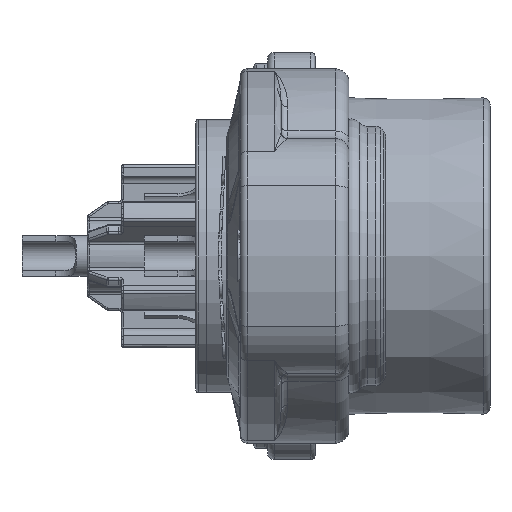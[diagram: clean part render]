
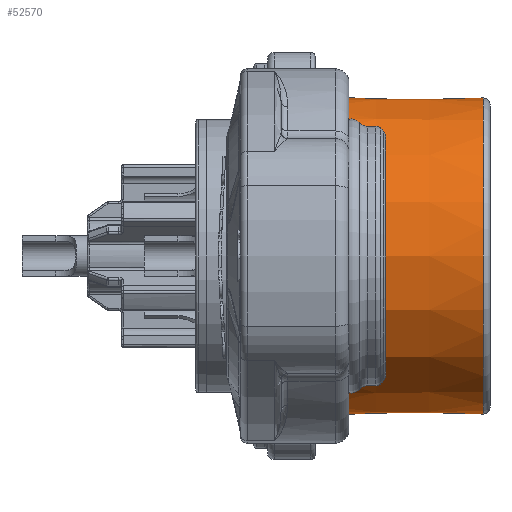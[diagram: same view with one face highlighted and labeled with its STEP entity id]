
A CAD part, front view. The second image highlights one B-rep face of the part: STEP entity #52570.
In plain terms, the highlighted conical face has half-angle 0.5 degrees and reference radius 11.65 mm.
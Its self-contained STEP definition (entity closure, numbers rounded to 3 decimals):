
#9003 = CARTESIAN_POINT ( 'NONE',  ( -12.404, 8.786, -7.814 ) ) ;
#12514 = DIRECTION ( 'NONE',  ( -1., 0., 0. ) ) ;
#18045 = VERTEX_POINT ( 'NONE', #31122 ) ;
#19444 = VERTEX_POINT ( 'NONE', #22709 ) ;
#20184 = CARTESIAN_POINT ( 'NONE',  ( -6.9, 8.761, -7.77 ) ) ;
#22709 = CARTESIAN_POINT ( 'NONE',  ( -0.496, 8.733, 7.718 ) ) ;
#23734 = ORIENTED_EDGE ( 'NONE', *, *, #47202, .T. ) ;
#25249 = CARTESIAN_POINT ( 'NONE',  ( -4.765, 8.752, -7.752 ) ) ;
#25289 = AXIS2_PLACEMENT_3D ( 'NONE', #43438, #31885, #59350 ) ;
#26780 = DIRECTION ( 'NONE',  ( -1., 0., 0. ) ) ;
#31008 = CARTESIAN_POINT ( 'NONE',  ( -0.496, 8.733, -7.718 ) ) ;
#31122 = CARTESIAN_POINT ( 'NONE',  ( -12.404, 8.786, 7.814 ) ) ;
#31376 = CARTESIAN_POINT ( 'NONE',  ( -0.496, 8.733, -7.718 ) ) ;
#31885 = DIRECTION ( 'NONE',  ( 1., 0., 0. ) ) ;
#32069 = CARTESIAN_POINT ( 'NONE',  ( -4.165, 8.749, 7.747 ) ) ;
#33130 = CARTESIAN_POINT ( 'NONE',  ( -12.404, 8.786, 7.814 ) ) ;
#34612 = VERTEX_POINT ( 'NONE', #62087 ) ;
#35236 = B_SPLINE_CURVE_WITH_KNOTS ( 'NONE', 3,
 ( #70689, #59875, #32069, #54120, #38576, #65282, #33130 ),
 .UNSPECIFIED., .F., .F.,
 ( 4, 3, 4 ),
 ( 0., 0.006, 0.012 ),
 .UNSPECIFIED. ) ;
#37640 = DIRECTION ( 'NONE',  ( 0., 0., 1. ) ) ;
#37824 = AXIS2_PLACEMENT_3D ( 'NONE', #49198, #26780, #37640 ) ;
#38383 = EDGE_CURVE ( 'NONE', #19444, #18045, #35236, .T. ) ;
#38576 = CARTESIAN_POINT ( 'NONE',  ( -8.135, 8.767, 7.78 ) ) ;
#40338 = EDGE_LOOP ( 'NONE', ( #49046, #44327, #46028, #23734 ) ) ;
#43438 = CARTESIAN_POINT ( 'NONE',  ( -12.404, 0., 0. ) ) ;
#44327 = ORIENTED_EDGE ( 'NONE', *, *, #59242, .T. ) ;
#45481 = VERTEX_POINT ( 'NONE', #31008 ) ;
#46028 = ORIENTED_EDGE ( 'NONE', *, *, #60934, .T. ) ;
#47202 = EDGE_CURVE ( 'NONE', #45481, #19444, #69549, .T. ) ;
#49046 = ORIENTED_EDGE ( 'NONE', *, *, #38383, .T. ) ;
#49198 = CARTESIAN_POINT ( 'NONE',  ( 0., 0., 0. ) ) ;
#52570 = ADVANCED_FACE ( 'NONE', ( #54258 ), #57407, .T. ) ;
#54048 = B_SPLINE_CURVE_WITH_KNOTS ( 'NONE', 3,
 ( #9003, #69299, #70353, #20184, #25249, #64938, #31376 ),
 .UNSPECIFIED., .F., .F.,
 ( 4, 3, 4 ),
 ( 0., 0.006, 0.012 ),
 .UNSPECIFIED. ) ;
#54120 = CARTESIAN_POINT ( 'NONE',  ( -6., 8.757, 7.762 ) ) ;
#54258 = FACE_OUTER_BOUND ( 'NONE', #40338, .T. ) ;
#56451 = CIRCLE ( 'NONE', #25289, 11.758 ) ;
#56593 = DIRECTION ( 'NONE',  ( 0., 0., -1. ) ) ;
#56921 = AXIS2_PLACEMENT_3D ( 'NONE', #61630, #12514, #56593 ) ;
#57407 = CONICAL_SURFACE ( 'NONE', #37824, 11.65, 0.009 ) ;
#59242 = EDGE_CURVE ( 'NONE', #18045, #34612, #56451, .T. ) ;
#59350 = DIRECTION ( 'NONE',  ( 0., 0., 1. ) ) ;
#59875 = CARTESIAN_POINT ( 'NONE',  ( -2.33, 8.741, 7.733 ) ) ;
#60934 = EDGE_CURVE ( 'NONE', #34612, #45481, #54048, .T. ) ;
#61630 = CARTESIAN_POINT ( 'NONE',  ( -0.496, 0., 0. ) ) ;
#62087 = CARTESIAN_POINT ( 'NONE',  ( -12.404, 8.786, -7.814 ) ) ;
#64938 = CARTESIAN_POINT ( 'NONE',  ( -2.631, 8.742, -7.735 ) ) ;
#65282 = CARTESIAN_POINT ( 'NONE',  ( -10.269, 8.776, 7.797 ) ) ;
#69299 = CARTESIAN_POINT ( 'NONE',  ( -10.57, 8.778, -7.8 ) ) ;
#69549 = CIRCLE ( 'NONE', #56921, 11.654 ) ;
#70353 = CARTESIAN_POINT ( 'NONE',  ( -8.735, 8.77, -7.785 ) ) ;
#70689 = CARTESIAN_POINT ( 'NONE',  ( -0.496, 8.733, 7.718 ) ) ;
